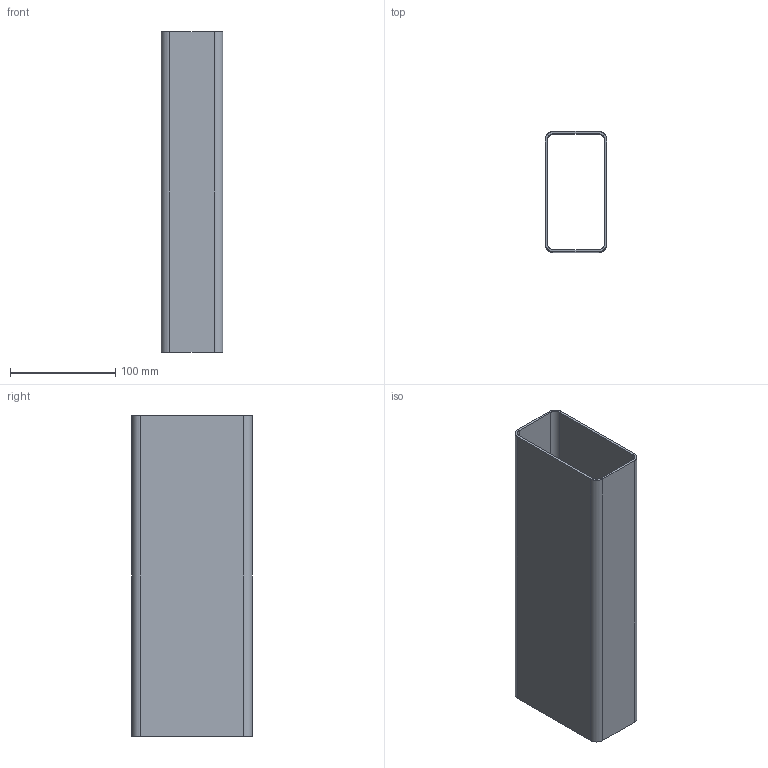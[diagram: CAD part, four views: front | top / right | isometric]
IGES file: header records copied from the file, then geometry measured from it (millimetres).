
Start section: SolidWorks IGES file using analytic representation for surfaces
Global section: file name: O:\Database\Dumb Solids - Coupling & Gussets\DRP-002-0001-05.IGS; native system: SolidWorks 2011; preprocessor: SolidWorks 2011; author: mbush2; date: 111205.153732; units: inch
Bounding box: 58.93 x 114.63 x 304.8 mm (x, y, z)
Surface area: 200397 mm2 (no closed solid volume)
Topology: 0 solids, 0 shells, 18 faces, 208 edges, 208 vertices
Faces by surface type: bspline 10, revolution 8
